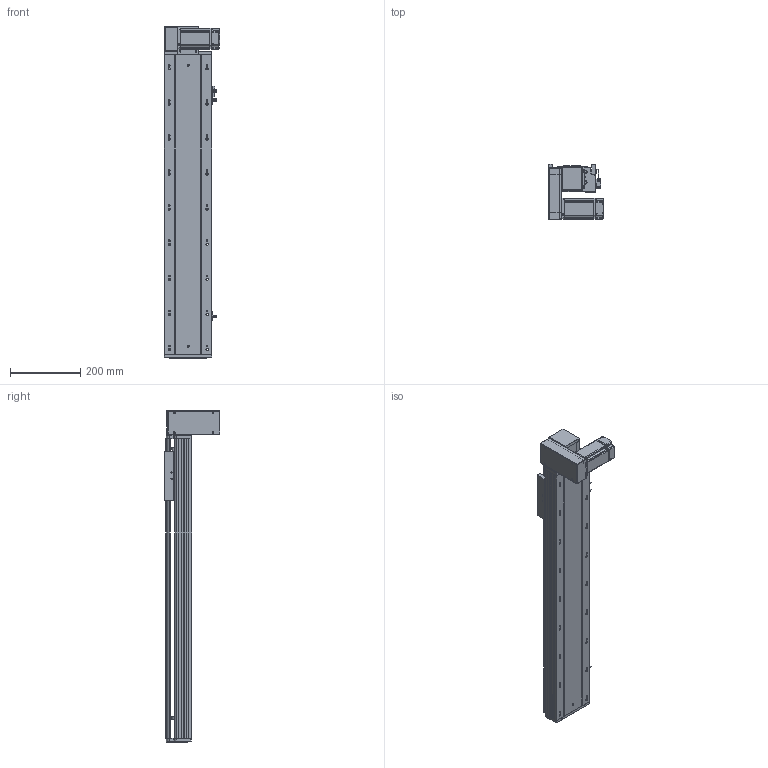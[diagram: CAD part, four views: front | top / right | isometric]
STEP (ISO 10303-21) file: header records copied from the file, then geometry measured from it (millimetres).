
FILE_DESCRIPTION (( 'STEP AP203' ), '1' );
FILE_NAME ('RY140-T-300-DL.SLDASM_600.step', '2021-03-01T06:05:51', ( '盈信电脑' ), ( '东莞市道滘镇水果街19号' ), 'SwSTEP 2.0', 'SolidWorks 2012', '' );
FILE_SCHEMA (( 'CONFIG_CONTROL_DESIGN' ));
Length unit declared in the file: millimetre
Products named in the file (18): RY140-T-300-DL.SLDASM_600; RY140-T翋肮謫裔啣; 滅袉蝶18-10; RY120-T蹟翐M4; 侂狟400W侜督萇儂; RY140-T萇儂欶; RY120-T主同步轮轴承压盖; RY120-T肮祭湍揤踡輸1; 15; RY140-T萇儂假蚾啣; RY140-T翋肮祭謫盓傅釱; RY120-T肮祭湍揤踡輸2; RY120外置感应片(140共用）; 覜茼ん672; RY140-T-300-DL倰第奻裔啣_600; RY140肮祭謫臏賑輸; RY140綴裔啣; RY140-T-300-DL倰第菁釱_600
Assembly tree (23 placements, depth 3):
  RY140-T-300-DL.SLDASM_600
    RY140-T-300-DL倰第菁釱_600
    RY140肮祭謫臏賑輸
    RY140-T-300-DL倰第奻裔啣_600
    RY140綴裔啣
    覜茼ん672  x3
    RY120外置感应片(140共用）
    RY120-T肮祭湍揤踡輸2
    RY120-T肮祭湍揤踡輸1
    RY140-T翋肮祭謫盓傅釱
    RY140-T萇儂假蚾啣
    侂狟400W侜督萇儂
      15
    RY120-T主同步轮轴承压盖
    RY120-T蹟翐M4  x4
    RY140-T萇儂欶
    滅袉蝶18-10  x2
    RY140-T翋肮謫裔啣
Bounding box: 157 x 158.5 x 946 mm (x, y, z)
Volume: 3034502.8 mm3; surface area: 1134788.4 mm2
Topology: 22 solids, 22 shells, 2662 faces, 7322 edges, 4718 vertices
Faces by surface type: plane 1389, cylinder 979, cone 194, bspline 100
Entity records: 84776 total; most frequent: CARTESIAN_POINT 20821, ORIENTED_EDGE 13180, DIRECTION 12452, EDGE_CURVE 6590, VERTEX_POINT 4317, VECTOR 4202, LINE 4202, AXIS2_PLACEMENT_3D 4125
